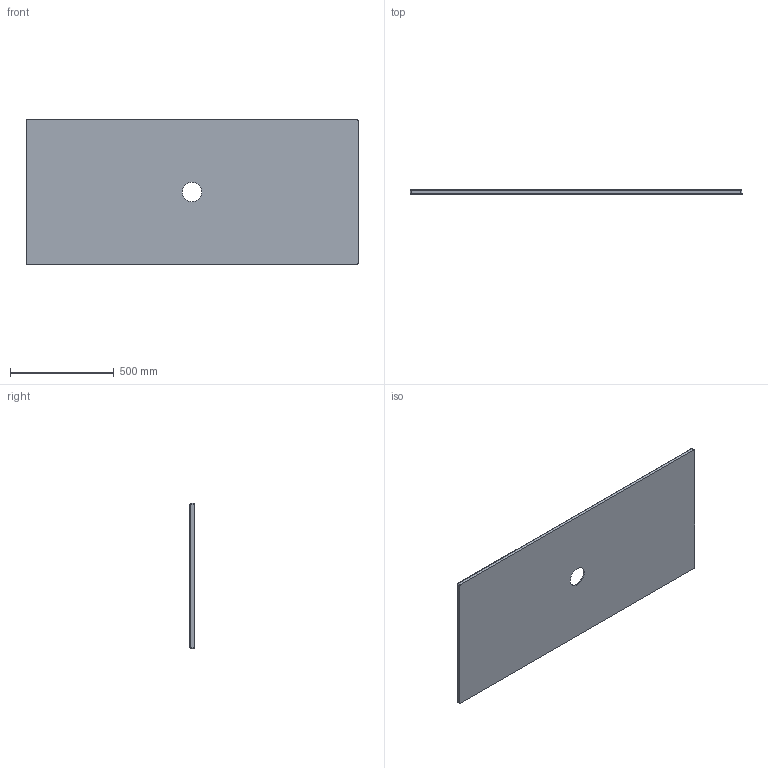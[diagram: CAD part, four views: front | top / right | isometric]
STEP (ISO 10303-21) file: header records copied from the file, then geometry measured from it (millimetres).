
FILE_DESCRIPTION (( 'STEP AP203' ), '1' );
FILE_NAME ('SDPD16007020.STEP', '2023-03-31T10:37:47', ( '' ), ( '' ), 'SwSTEP 2.0', 'SolidWorks 2023', '' );
FILE_SCHEMA (( 'CONFIG_CONTROL_DESIGN' ));
Length unit declared in the file: millimetre
Products named in the file (1): SDPD16007020
Bounding box: 1600 x 20 x 700 mm (x, y, z)
Volume: 18613043.7 mm3; surface area: 2297869.6 mm2
Topology: 1 solids, 1 shells, 26 faces, 62 edges, 40 vertices
Faces by surface type: cylinder 9, plane 8, sphere 4, bspline 2, torus 2, cone 1
Full cylindrical faces by diameter (mm): 95 x1
Entity records: 2609 total; most frequent: CARTESIAN_POINT 1993, DIRECTION 108, ORIENTED_EDGE 104, EDGE_CURVE 52, AXIS2_PLACEMENT_3D 44, VERTEX_POINT 36, EDGE_LOOP 36, FACE_OUTER_BOUND 31
